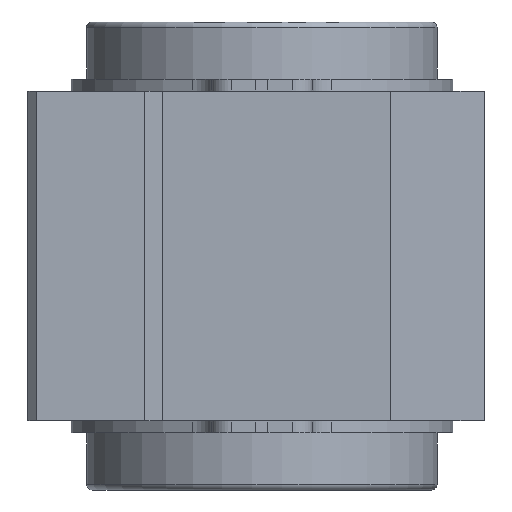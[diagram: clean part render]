
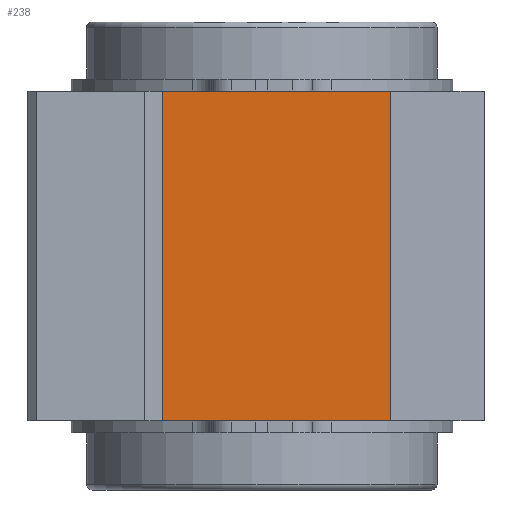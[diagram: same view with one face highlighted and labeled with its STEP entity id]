
A CAD part, left-side view. The second image highlights one B-rep face of the part: STEP entity #238.
In plain terms, the highlighted planar face has unit normal (-1, 0, 0).
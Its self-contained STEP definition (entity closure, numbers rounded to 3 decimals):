
#238=ADVANCED_FACE('',(#335),#336,.F.);
#335=FACE_OUTER_BOUND('',#506,.T.);
#336=PLANE('',#507);
#506=EDGE_LOOP('',(#785,#786,#787,#788));
#507=AXIS2_PLACEMENT_3D('',#789,#790,#791);
#785=ORIENTED_EDGE('',*,*,#1155,.T.);
#786=ORIENTED_EDGE('',*,*,#1174,.F.);
#787=ORIENTED_EDGE('',*,*,#1132,.F.);
#788=ORIENTED_EDGE('',*,*,#1175,.T.);
#789=CARTESIAN_POINT('',(-48.0,17.0,28.2));
#790=DIRECTION('',(1.0,0.0,0.0));
#791=DIRECTION('',(0.0,1.0,0.0));
#1132=EDGE_CURVE('',#1287,#1289,#1290,.T.);
#1155=EDGE_CURVE('',#1334,#1332,#1335,.T.);
#1174=EDGE_CURVE('',#1289,#1332,#1362,.T.);
#1175=EDGE_CURVE('',#1287,#1334,#1363,.T.);
#1287=VERTEX_POINT('',#1548);
#1289=VERTEX_POINT('',#1551);
#1290=LINE('',#1552,#1553);
#1332=VERTEX_POINT('',#1615);
#1334=VERTEX_POINT('',#1618);
#1335=LINE('',#1619,#1620);
#1362=LINE('',#1660,#1661);
#1363=LINE('',#1662,#1663);
#1548=CARTESIAN_POINT('',(-48.0,17.0,28.2));
#1551=CARTESIAN_POINT('',(-48.0,-22.0,28.2));
#1552=CARTESIAN_POINT('',(-48.0,17.0,28.2));
#1553=VECTOR('',#1870,1.0);
#1615=CARTESIAN_POINT('',(-48.0,-22.0,-28.2));
#1618=CARTESIAN_POINT('',(-48.0,17.0,-28.2));
#1619=CARTESIAN_POINT('',(-48.0,17.0,-28.2));
#1620=VECTOR('',#1895,1.0);
#1660=CARTESIAN_POINT('',(-48.0,-22.0,28.2));
#1661=VECTOR('',#1924,1.0);
#1662=CARTESIAN_POINT('',(-48.0,17.0,28.2));
#1663=VECTOR('',#1925,1.0);
#1870=DIRECTION('',(0.0,-1.0,0.0));
#1895=DIRECTION('',(0.0,-1.0,0.0));
#1924=DIRECTION('',(0.0,0.0,-1.0));
#1925=DIRECTION('',(0.0,0.0,-1.0));
